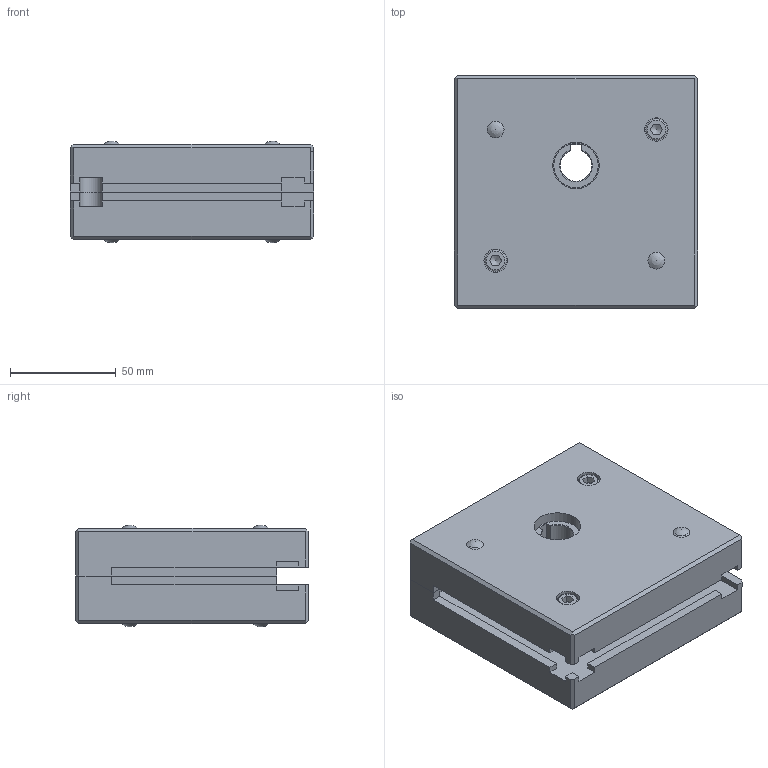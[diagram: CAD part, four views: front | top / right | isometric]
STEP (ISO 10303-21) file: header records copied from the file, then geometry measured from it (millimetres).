
FILE_DESCRIPTION(/* description */ ('TIMING BELT PULLEY T45 15mm'),/* implementation_level */ '2;1');
FILE_NAME(/* name */ 'Z:\WEBSITE\DREAMWEAVER\MiniTec\Products\Linear System LR\CAD\Step\28.0614_5 TIMING BELT PULLEY T45 15mm.stp',/* time_stamp */ '2018-05-10T10:33:27-04:00',/* author */ ('amoles'),/* organization */ (''),/* preprocessor_version */ 'ST-DEVELOPER v17',/* originating_system */ 'Autodesk Inventor 2018',/* authorisation */ '');
FILE_SCHEMA (('AUTOMOTIVE_DESIGN { 1 0 10303 214 3 1 1 }'));
Length unit declared in the file: millimetre
Products named in the file (9): 28.0614/5 ; 28.0614 TIMING BELT PULLEY T45 RIGHT PLATE; 28.0047/4; leer; 28.0083 BEARING; leer_1; 28.0614 TIMING BELT PULLEY T45 LEFT PLATE; leer_2; 22.1203
Assembly tree (17 placements, depth 2):
  28.0614/5 
    28.0614 TIMING BELT PULLEY T45 RIGHT PLATE
    28.0047/4
    leer  x2
    28.0083 BEARING  x2
    leer_1  x2
    28.0614 TIMING BELT PULLEY T45 LEFT PLATE
    leer_2  x4
    22.1203  x4
Bounding box: 115 x 110 x 48 mm (x, y, z)
Volume: 406543.4 mm3; surface area: 132290.7 mm2
Topology: 17 solids, 17 shells, 341 faces, 888 edges, 611 vertices
Faces by surface type: plane 212, cylinder 107, cone 10, torus 8, bspline 4
Full cylindrical faces by diameter (mm): 4 x4, 5.75 x4, 6 x8, 6.5 x4, 10 x4, 11 x4, 21 x2, 22 x2, 25 x6, 30 x6, 35 x2, 37 x2, 43 x4, 47 x6, 66.04 x2
Entity records: 8639 total; most frequent: CARTESIAN_POINT 1494, DIRECTION 1457, ORIENTED_EDGE 1382, EDGE_CURVE 691, AXIS2_PLACEMENT_3D 494, VERTEX_POINT 471, LINE 469, VECTOR 469
